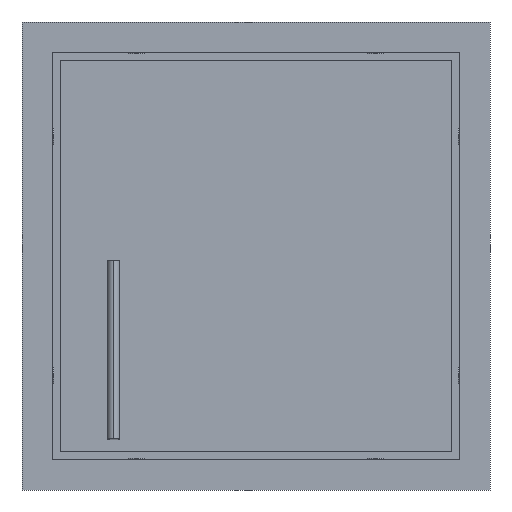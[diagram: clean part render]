
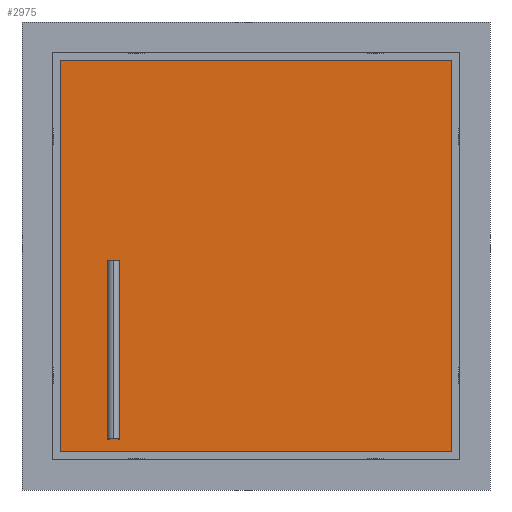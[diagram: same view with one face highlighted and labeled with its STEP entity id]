
A CAD part, front view. The second image highlights one B-rep face of the part: STEP entity #2975.
In plain terms, the highlighted planar face has unit normal (0, -1, 0).
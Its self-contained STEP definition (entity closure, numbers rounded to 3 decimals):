
#2706=DIRECTION('',(0.,0.,-1.));
#2707=VECTOR('',#2706,848.);
#2708=CARTESIAN_POINT('',(424.,79.,415.));
#2709=LINE('',#2708,#2707);
#2714=DIRECTION('',(-1.,0.,0.));
#2715=VECTOR('',#2714,848.);
#2716=CARTESIAN_POINT('',(424.,79.,-433.));
#2717=LINE('',#2716,#2715);
#2722=DIRECTION('',(0.,0.,1.));
#2723=VECTOR('',#2722,848.);
#2724=CARTESIAN_POINT('',(-424.,79.,-433.));
#2725=LINE('',#2724,#2723);
#2730=DIRECTION('',(1.,0.,0.));
#2731=VECTOR('',#2730,848.);
#2732=CARTESIAN_POINT('',(-424.,79.,415.));
#2733=LINE('',#2732,#2731);
#2805=CARTESIAN_POINT('',(424.,79.,415.));
#2806=CARTESIAN_POINT('',(424.,79.,-433.));
#2807=VERTEX_POINT('',#2805);
#2808=VERTEX_POINT('',#2806);
#2809=CARTESIAN_POINT('',(-424.,79.,-433.));
#2810=VERTEX_POINT('',#2809);
#2811=CARTESIAN_POINT('',(-424.,79.,415.));
#2812=VERTEX_POINT('',#2811);
#2961=CARTESIAN_POINT('',(0.,79.,0.));
#2962=DIRECTION('',(0.,1.,0.));
#2963=DIRECTION('',(0.,0.,-1.));
#2964=AXIS2_PLACEMENT_3D('',#2961,#2962,#2963);
#2965=PLANE('',#2964);
#2966=ORIENTED_EDGE('',*,*,#2951,.T.);
#2968=ORIENTED_EDGE('',*,*,#2967,.T.);
#2970=ORIENTED_EDGE('',*,*,#2969,.T.);
#2972=ORIENTED_EDGE('',*,*,#2971,.T.);
#2973=EDGE_LOOP('',(#2966,#2968,#2970,#2972));
#2974=FACE_OUTER_BOUND('',#2973,.F.);
#2975=ADVANCED_FACE('',(#2974),#2965,.F.);
#2951=EDGE_CURVE('',#2807,#2808,#2709,.T.);
#2967=EDGE_CURVE('',#2808,#2810,#2717,.T.);
#2969=EDGE_CURVE('',#2810,#2812,#2725,.T.);
#2971=EDGE_CURVE('',#2812,#2807,#2733,.T.);
